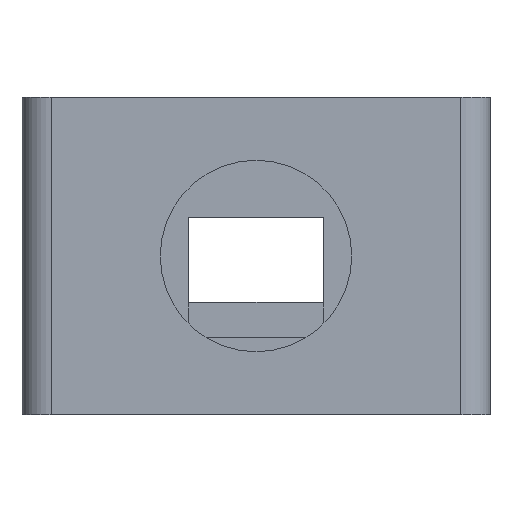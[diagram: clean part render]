
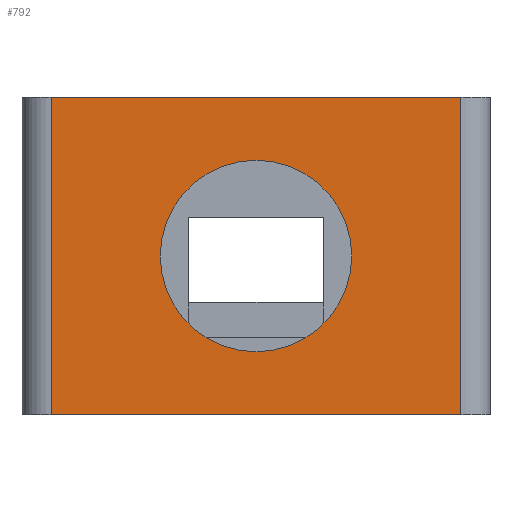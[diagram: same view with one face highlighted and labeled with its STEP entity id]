
A CAD part, front view. The second image highlights one B-rep face of the part: STEP entity #792.
In plain terms, the highlighted planar face has unit normal (0, -1, 0).
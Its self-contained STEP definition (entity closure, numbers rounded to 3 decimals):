
#44 = PLANE('',#45);
#45 = AXIS2_PLACEMENT_3D('',#46,#47,#48);
#46 = CARTESIAN_POINT('',(-2.1,-54.,16.4));
#47 = DIRECTION('',(0.,0.,1.));
#48 = DIRECTION('',(1.,0.,0.));
#72 = CYLINDRICAL_SURFACE('',#73,1.5);
#73 = AXIS2_PLACEMENT_3D('',#74,#75,#76);
#74 = CARTESIAN_POINT('',(-0.6,-52.5,0.));
#75 = DIRECTION('',(0.,0.,1.));
#76 = DIRECTION('',(-1.,-0.,0.));
#100 = PLANE('',#101);
#101 = AXIS2_PLACEMENT_3D('',#102,#103,#104);
#102 = CARTESIAN_POINT('',(-2.1,-54.,0.));
#103 = DIRECTION('',(0.,0.,1.));
#104 = DIRECTION('',(1.,0.,0.));
#143 = VERTEX_POINT('',#144);
#144 = CARTESIAN_POINT('',(-0.6,-54.,16.4));
#166 = EDGE_CURVE('',#143,#167,#169,.T.);
#167 = VERTEX_POINT('',#168);
#168 = CARTESIAN_POINT('',(20.6,-54.,16.4));
#169 = SURFACE_CURVE('',#170,(#174,#181),.PCURVE_S1.);
#170 = LINE('',#171,#172);
#171 = CARTESIAN_POINT('',(-2.1,-54.,16.4));
#172 = VECTOR('',#173,1.);
#173 = DIRECTION('',(1.,0.,0.));
#174 = PCURVE('',#44,#175);
#175 = DEFINITIONAL_REPRESENTATION('',(#176),#180);
#176 = LINE('',#177,#178);
#177 = CARTESIAN_POINT('',(0.,0.));
#178 = VECTOR('',#179,1.);
#179 = DIRECTION('',(1.,0.));
#180 = ( GEOMETRIC_REPRESENTATION_CONTEXT(2) 
PARAMETRIC_REPRESENTATION_CONTEXT() REPRESENTATION_CONTEXT('2D SPACE',''
  ) );
#181 = PCURVE('',#182,#187);
#182 = PLANE('',#183);
#183 = AXIS2_PLACEMENT_3D('',#184,#185,#186);
#184 = CARTESIAN_POINT('',(-2.1,-54.,0.));
#185 = DIRECTION('',(0.,1.,0.));
#186 = DIRECTION('',(0.,0.,1.));
#187 = DEFINITIONAL_REPRESENTATION('',(#188),#192);
#188 = LINE('',#189,#190);
#189 = CARTESIAN_POINT('',(16.4,0.));
#190 = VECTOR('',#191,1.);
#191 = DIRECTION('',(0.,1.));
#192 = ( GEOMETRIC_REPRESENTATION_CONTEXT(2) 
PARAMETRIC_REPRESENTATION_CONTEXT() REPRESENTATION_CONTEXT('2D SPACE',''
  ) );
#215 = CYLINDRICAL_SURFACE('',#216,1.5);
#216 = AXIS2_PLACEMENT_3D('',#217,#218,#219);
#217 = CARTESIAN_POINT('',(20.6,-52.5,0.));
#218 = DIRECTION('',(0.,0.,1.));
#219 = DIRECTION('',(1.,0.,-0.));
#454 = VERTEX_POINT('',#455);
#455 = CARTESIAN_POINT('',(-0.6,-54.,0.));
#477 = EDGE_CURVE('',#454,#143,#478,.T.);
#478 = SURFACE_CURVE('',#479,(#483,#490),.PCURVE_S1.);
#479 = LINE('',#480,#481);
#480 = CARTESIAN_POINT('',(-0.6,-54.,0.));
#481 = VECTOR('',#482,1.);
#482 = DIRECTION('',(0.,0.,1.));
#483 = PCURVE('',#72,#484);
#484 = DEFINITIONAL_REPRESENTATION('',(#485),#489);
#485 = LINE('',#486,#487);
#486 = CARTESIAN_POINT('',(1.571,0.));
#487 = VECTOR('',#488,1.);
#488 = DIRECTION('',(0.,1.));
#489 = ( GEOMETRIC_REPRESENTATION_CONTEXT(2) 
PARAMETRIC_REPRESENTATION_CONTEXT() REPRESENTATION_CONTEXT('2D SPACE',''
  ) );
#490 = PCURVE('',#182,#491);
#491 = DEFINITIONAL_REPRESENTATION('',(#492),#496);
#492 = LINE('',#493,#494);
#493 = CARTESIAN_POINT('',(0.,1.5));
#494 = VECTOR('',#495,1.);
#495 = DIRECTION('',(1.,0.));
#496 = ( GEOMETRIC_REPRESENTATION_CONTEXT(2) 
PARAMETRIC_REPRESENTATION_CONTEXT() REPRESENTATION_CONTEXT('2D SPACE',''
  ) );
#673 = EDGE_CURVE('',#454,#674,#676,.T.);
#674 = VERTEX_POINT('',#675);
#675 = CARTESIAN_POINT('',(20.6,-54.,0.));
#676 = SURFACE_CURVE('',#677,(#681,#688),.PCURVE_S1.);
#677 = LINE('',#678,#679);
#678 = CARTESIAN_POINT('',(-2.1,-54.,0.));
#679 = VECTOR('',#680,1.);
#680 = DIRECTION('',(1.,0.,0.));
#681 = PCURVE('',#100,#682);
#682 = DEFINITIONAL_REPRESENTATION('',(#683),#687);
#683 = LINE('',#684,#685);
#684 = CARTESIAN_POINT('',(0.,0.));
#685 = VECTOR('',#686,1.);
#686 = DIRECTION('',(1.,0.));
#687 = ( GEOMETRIC_REPRESENTATION_CONTEXT(2) 
PARAMETRIC_REPRESENTATION_CONTEXT() REPRESENTATION_CONTEXT('2D SPACE',''
  ) );
#688 = PCURVE('',#182,#689);
#689 = DEFINITIONAL_REPRESENTATION('',(#690),#694);
#690 = LINE('',#691,#692);
#691 = CARTESIAN_POINT('',(0.,0.));
#692 = VECTOR('',#693,1.);
#693 = DIRECTION('',(0.,1.));
#694 = ( GEOMETRIC_REPRESENTATION_CONTEXT(2) 
PARAMETRIC_REPRESENTATION_CONTEXT() REPRESENTATION_CONTEXT('2D SPACE',''
  ) );
#792 = ADVANCED_FACE('',(#793,#819),#182,.F.);
#793 = FACE_BOUND('',#794,.F.);
#794 = EDGE_LOOP('',(#795,#796,#797,#798));
#795 = ORIENTED_EDGE('',*,*,#673,.F.);
#796 = ORIENTED_EDGE('',*,*,#477,.T.);
#797 = ORIENTED_EDGE('',*,*,#166,.T.);
#798 = ORIENTED_EDGE('',*,*,#799,.F.);
#799 = EDGE_CURVE('',#674,#167,#800,.T.);
#800 = SURFACE_CURVE('',#801,(#805,#812),.PCURVE_S1.);
#801 = LINE('',#802,#803);
#802 = CARTESIAN_POINT('',(20.6,-54.,0.));
#803 = VECTOR('',#804,1.);
#804 = DIRECTION('',(0.,0.,1.));
#805 = PCURVE('',#182,#806);
#806 = DEFINITIONAL_REPRESENTATION('',(#807),#811);
#807 = LINE('',#808,#809);
#808 = CARTESIAN_POINT('',(0.,22.7));
#809 = VECTOR('',#810,1.);
#810 = DIRECTION('',(1.,0.));
#811 = ( GEOMETRIC_REPRESENTATION_CONTEXT(2) 
PARAMETRIC_REPRESENTATION_CONTEXT() REPRESENTATION_CONTEXT('2D SPACE',''
  ) );
#812 = PCURVE('',#215,#813);
#813 = DEFINITIONAL_REPRESENTATION('',(#814),#818);
#814 = LINE('',#815,#816);
#815 = CARTESIAN_POINT('',(-1.571,0.));
#816 = VECTOR('',#817,1.);
#817 = DIRECTION('',(-0.,1.));
#818 = ( GEOMETRIC_REPRESENTATION_CONTEXT(2) 
PARAMETRIC_REPRESENTATION_CONTEXT() REPRESENTATION_CONTEXT('2D SPACE',''
  ) );
#819 = FACE_BOUND('',#820,.F.);
#820 = EDGE_LOOP('',(#821));
#821 = ORIENTED_EDGE('',*,*,#822,.T.);
#822 = EDGE_CURVE('',#823,#823,#825,.T.);
#823 = VERTEX_POINT('',#824);
#824 = CARTESIAN_POINT('',(14.95,-54.,8.2));
#825 = SURFACE_CURVE('',#826,(#831,#842),.PCURVE_S1.);
#826 = CIRCLE('',#827,4.95);
#827 = AXIS2_PLACEMENT_3D('',#828,#829,#830);
#828 = CARTESIAN_POINT('',(10.,-54.,8.2));
#829 = DIRECTION('',(0.,-1.,-0.));
#830 = DIRECTION('',(1.,0.,0.));
#831 = PCURVE('',#182,#832);
#832 = DEFINITIONAL_REPRESENTATION('',(#833),#841);
#833 = ( BOUNDED_CURVE() B_SPLINE_CURVE(2,(#834,#835,#836,#837,#838,#839
,#840),.UNSPECIFIED.,.T.,.F.) B_SPLINE_CURVE_WITH_KNOTS((1,2,2,2,2,1),(
    -2.094,0.,2.094,4.189,6.283,
8.378),.UNSPECIFIED.) CURVE() GEOMETRIC_REPRESENTATION_ITEM() 
RATIONAL_B_SPLINE_CURVE((1.,0.5,1.,0.5,1.,0.5,1.)) REPRESENTATION_ITEM(
  '') );
#834 = CARTESIAN_POINT('',(8.2,17.05));
#835 = CARTESIAN_POINT('',(16.774,17.05));
#836 = CARTESIAN_POINT('',(12.487,9.625));
#837 = CARTESIAN_POINT('',(8.2,2.2));
#838 = CARTESIAN_POINT('',(3.913,9.625));
#839 = CARTESIAN_POINT('',(-0.374,17.05));
#840 = CARTESIAN_POINT('',(8.2,17.05));
#841 = ( GEOMETRIC_REPRESENTATION_CONTEXT(2) 
PARAMETRIC_REPRESENTATION_CONTEXT() REPRESENTATION_CONTEXT('2D SPACE',''
  ) );
#842 = PCURVE('',#843,#848);
#843 = CYLINDRICAL_SURFACE('',#844,4.95);
#844 = AXIS2_PLACEMENT_3D('',#845,#846,#847);
#845 = CARTESIAN_POINT('',(10.,-54.1,8.2));
#846 = DIRECTION('',(0.,-1.,-0.));
#847 = DIRECTION('',(1.,0.,0.));
#848 = DEFINITIONAL_REPRESENTATION('',(#849),#853);
#849 = LINE('',#850,#851);
#850 = CARTESIAN_POINT('',(-6.283,-0.1));
#851 = VECTOR('',#852,1.);
#852 = DIRECTION('',(1.,-0.));
#853 = ( GEOMETRIC_REPRESENTATION_CONTEXT(2) 
PARAMETRIC_REPRESENTATION_CONTEXT() REPRESENTATION_CONTEXT('2D SPACE',''
  ) );
